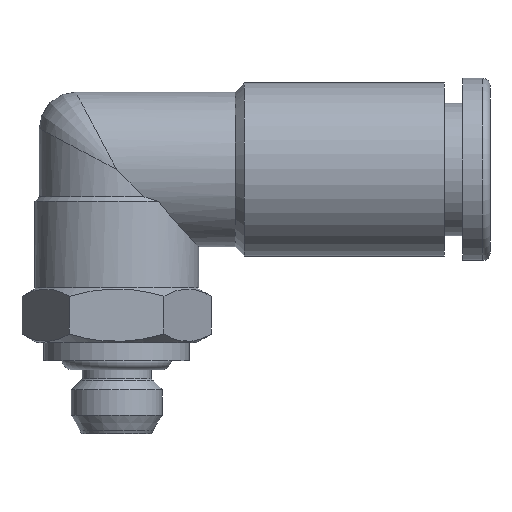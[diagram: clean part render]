
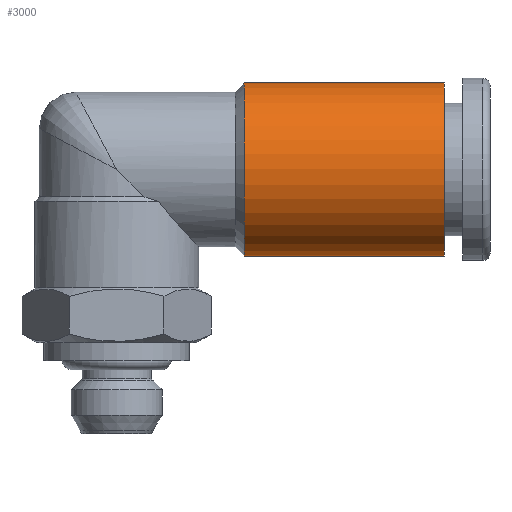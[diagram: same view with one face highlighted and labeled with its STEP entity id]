
A CAD part, front view. The second image highlights one B-rep face of the part: STEP entity #3000.
In plain terms, the highlighted cylindrical face has radius 4.75 mm (diameter 9.5 mm), a full revolution.
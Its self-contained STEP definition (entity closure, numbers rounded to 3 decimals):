
#3000=ADVANCED_FACE('', (#3010,#3020), #3030, .T.);
#7900=AXIS2_PLACEMENT_3D('Ax2Pl3d', #7910, #7920, #7930);
#9180=AXIS2_PLACEMENT_3D('Ax2Pl3d', #9190, #9200, #9210);
#9220=AXIS2_PLACEMENT_3D('Ax2Pl3d', #9230, #9240, #9250);
#7910=CARTESIAN_POINT('HicPkt', (23.466,5.655,
8.12));
#21510=CARTESIAN_POINT('', (23.466,5.655,12.87));
#9190=CARTESIAN_POINT('HicPkt', (12.466,5.655,
8.12));
#21700=CARTESIAN_POINT('', (12.466,5.655,12.87));
#9230=CARTESIAN_POINT('HicPkt', (12.466,5.655,
8.12));
#22240=CIRCLE('Circle', #7900, 4.75);
#22380=CIRCLE('Circle', #9180, 4.75);
#3030=CYLINDRICAL_SURFACE('Zyl', #9220, 4.75);
#7920=DIRECTION('Axis', (-1.,0.,0.))
;
#7930=DIRECTION('RefDirection', (0.,
0.,-1.));
#9200=DIRECTION('Axis', (-1.,0.,0.))
;
#9210=DIRECTION('RefDirection', (0.,
0.,-1.));
#9240=DIRECTION('Axis', (1.,0.,0.));
#9250=DIRECTION('RefDirection', (0.,0.,-1.));
#26690=EDGE_CURVE('', #26700, #26700, #22240, .T.);
#27150=EDGE_CURVE('', #27160, #27160, #22380, .T.);
#30400=EDGE_LOOP('Edge_loop', (#30410));
#30420=EDGE_LOOP('Edge_loop', (#30430));
#3020=FACE_BOUND('', #30420, .T.);
#3010=FACE_OUTER_BOUND('Face_outer_bound', #30400, .T.);
#30410=ORIENTED_EDGE('', *, *, #26690, .T.);
#30430=ORIENTED_EDGE('', *, *, #27150, .F.);
#26700=VERTEX_POINT('', #21510);
#27160=VERTEX_POINT('', #21700);
